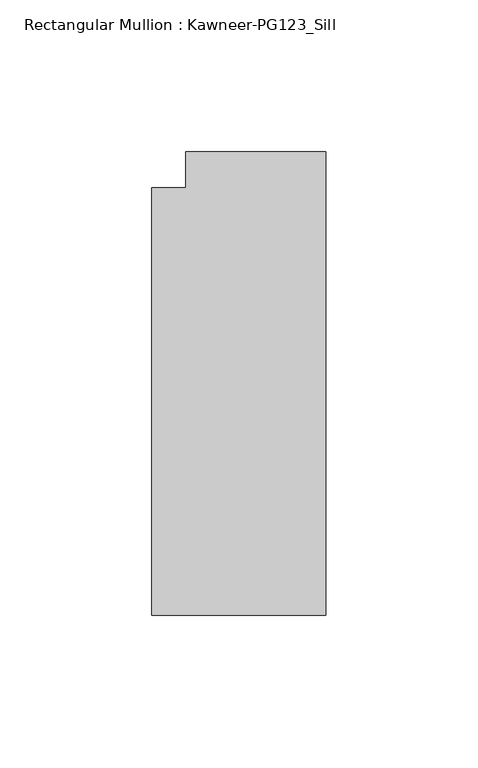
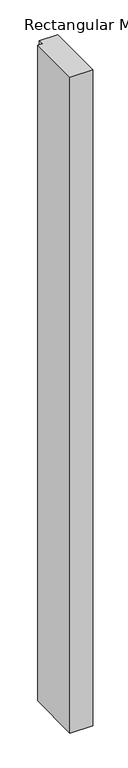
"""IFC4 building model written with IfcOpenShell, lengths in millimetres: member geometry, Rectangular Mullion : Kawneer-PG123_Sill."""

import ifcopenshell
import ifcopenshell.guid

model = None  # the IFC model being written
_history = None  # IfcOwnerHistory: only IFC2X3 demands one
_inside = {}  # id of a spatial element -> (the spatial element, [elements in it])
_under = {}  # id of a project, library or spatial element -> (it, [spatial elements below it])
_declared = {}  # id of a project -> (the project, [libraries it declares])
_typed = {}  # id of a type object -> (the type object, [elements of that type])
_made_of = {}  # id of a material, layer set ... -> (it, [elements and type objects made of it])


def new_model(schema):
    """Start an empty IFC model of exactly this schema.

    Asked for "IFC4X3", IfcOpenShell would pick the latest addendum, in which some entities
    have other attributes; the version numbers below select the first issue.
    IFC2X3 requires an IfcOwnerHistory on every rooted entity: one is made here for all.
    """
    global model, _history
    if schema == "IFC4X3":
        model = ifcopenshell.file(schema_version=(4, 3, 0, 0))
    else:
        model = ifcopenshell.file(schema=schema)
    _inside.clear()
    _under.clear()
    _declared.clear()
    _typed.clear()
    _made_of.clear()
    _history = None
    if model.schema == "IFC2X3":
        org = make("IfcOrganization", Name="unknown")
        user = make(
            "IfcPersonAndOrganization",
            ThePerson=make("IfcPerson", FamilyName="unknown"),
            TheOrganization=org,
        )
        app = make(
            "IfcApplication",
            ApplicationDeveloper=org,
            Version="unknown",
            ApplicationFullName="unknown",
            ApplicationIdentifier="unknown",
        )
        _history = make(
            "IfcOwnerHistory",
            OwningUser=user,
            OwningApplication=app,
            ChangeAction="ADDED",
            CreationDate=0,
        )
    return model


def make(cls, **values):
    """One entity of the class cls with the attributes given. An attribute that is None is left unset."""
    return model.create_entity(
        cls, **{name: value for name, value in values.items() if value is not None}
    )


def rooted(cls, **values):
    """An entity with a GlobalId (a new one), such as an element, a storey or a relation."""
    return make(cls, GlobalId=ifcopenshell.guid.new(), OwnerHistory=_history, **values)


def si_unit(unit_type, name, prefix=None):
    """IfcSIUnit, for example si_unit("LENGTHUNIT", "METRE", prefix="MILLI")."""
    return make("IfcSIUnit", UnitType=unit_type, Prefix=prefix, Name=name)


def assignment(units):
    """IfcUnitAssignment: the units of a project."""
    return None if units is None else make("IfcUnitAssignment", Units=units)


def point(xyz):
    """IfcCartesianPoint."""
    return None if xyz is None else make("IfcCartesianPoint", Coordinates=xyz)


def direction(xyz):
    """IfcDirection."""
    return None if xyz is None else make("IfcDirection", DirectionRatios=xyz)


def frame(location, z_axis=None, x_axis=None):
    """IfcAxis2Placement3D, a coordinate frame: its origin and axes. An axis left out is left unset."""
    return make(
        "IfcAxis2Placement3D",
        Location=point(location),
        Axis=direction(z_axis),
        RefDirection=direction(x_axis),
    )


def origin():
    """The frame at (0, 0, 0) with its axes left unset."""
    return frame((0.0, 0.0, 0.0))


def place(relative_to, where):
    """IfcLocalPlacement: puts the frame where relative to a parent placement (None: the world)."""
    return make(
        "IfcLocalPlacement", PlacementRelTo=relative_to, RelativePlacement=where
    )


def context(
    kind, dimensions, precision=None, world=None, true_north=None, identifier=None
):
    """IfcGeometricRepresentationContext, for example the 3D "Model" context."""
    return make(
        "IfcGeometricRepresentationContext",
        ContextIdentifier=identifier,
        ContextType=kind,
        CoordinateSpaceDimension=dimensions,
        Precision=precision,
        WorldCoordinateSystem=world,
        TrueNorth=true_north,
    )


def project(units=None, contexts=None):
    """IfcProject with its units and contexts."""
    return rooted(
        "IfcProject",
        Name="project",
        RepresentationContexts=contexts,
        UnitsInContext=assignment(units),
    )


def spatial(cls, under=None, at=None, **own):
    """A site, building, storey or space (cls), placed at a placement, below another one or the project."""
    s = rooted(cls, ObjectPlacement=at, **own)
    if under is not None:
        _under.setdefault(under.id(), (under, []))[1].append(s)
    return s


def polyline(points):
    """IfcPolyline through the points."""
    return make("IfcPolyline", Points=[point(p) for p in points])


def outline(outer, holes=None, kind="AREA"):
    """IfcArbitraryClosedProfileDef: a profile drawn as a closed curve; with holes, ...WithVoids."""
    if holes is None:
        return make("IfcArbitraryClosedProfileDef", ProfileType=kind, OuterCurve=outer)
    return make(
        "IfcArbitraryProfileDefWithVoids",
        ProfileType=kind,
        OuterCurve=outer,
        InnerCurves=holes,
    )


def extrude(swept, where, along, depth):
    """IfcExtrudedAreaSolid: the profile swept, set in the frame where, extruded along a direction by depth."""
    return make(
        "IfcExtrudedAreaSolid",
        SweptArea=swept,
        Position=where,
        ExtrudedDirection=direction(along),
        Depth=depth,
    )


def shape(context_of_items, identifier, shape_type, items):
    """IfcShapeRepresentation: the items that make up one representation, for example the "Body"."""
    return make(
        "IfcShapeRepresentation",
        ContextOfItems=context_of_items,
        RepresentationIdentifier=identifier,
        RepresentationType=shape_type,
        Items=items,
    )


def source(mapping_origin, context_of_items, identifier, shape_type, items):
    """IfcRepresentationMap: a shape defined once, which mapped items show again and again."""
    return make(
        "IfcRepresentationMap",
        MappingOrigin=mapping_origin,
        MappedRepresentation=shape(context_of_items, identifier, shape_type, items),
    )


def transform(
    local_origin,
    x_axis=None,
    y_axis=None,
    z_axis=None,
    scale=None,
    scale2=None,
    scale3=None,
    uniform=True,
):
    """IfcCartesianTransformationOperator3D, or its non-uniform kind. x_axis, y_axis, z_axis: its Axis1, 2, 3."""
    if uniform:
        return make(
            "IfcCartesianTransformationOperator3D",
            Axis1=direction(x_axis),
            Axis2=direction(y_axis),
            LocalOrigin=point(local_origin),
            Scale=scale,
            Axis3=direction(z_axis),
        )
    return make(
        "IfcCartesianTransformationOperator3DnonUniform",
        Axis1=direction(x_axis),
        Axis2=direction(y_axis),
        LocalOrigin=point(local_origin),
        Scale=scale,
        Axis3=direction(z_axis),
        Scale2=scale2,
        Scale3=scale3,
    )


def mapped(mapping_source, mapping_target):
    """IfcMappedItem: shows the shape of a source again, moved by a transform."""
    return make(
        "IfcMappedItem", MappingSource=mapping_source, MappingTarget=mapping_target
    )


def made_of(thing, what):
    """Note that an element or type object is made of a material, layer set ...; save() writes the relation."""
    if what is not None:
        _made_of.setdefault(what.id(), (what, []))[1].append(thing)
    return thing


def element(
    cls,
    number,
    at=None,
    inside=None,
    cuts=None,
    type_object=None,
    material=None,
    context=None,
    identifier="Body",
    shape_type=None,
    held_by="IfcProductDefinitionShape",
    body=None,
    shapes=None,
    **own,
):
    """One element of the class cls, such as IfcWall. Its Tag is "e" and its number.

    at: its placement. inside: the storey or other place that contains it. cuts: it is an
    opening in that element (IfcRelVoidsElement). A single representation is given by context,
    identifier, shape_type and body (its items); several are given by shapes. held_by: the class
    of the entity that holds the representations. save() writes the other relations.
    """
    e = rooted(cls, Tag="e%d" % number, ObjectPlacement=at, **own)
    if body is not None:
        shapes = [shape(context, identifier, shape_type, body)]
    if shapes is not None:
        e.Representation = make(held_by, Representations=shapes)
    if inside is not None:
        _inside.setdefault(inside.id(), (inside, []))[1].append(e)
    if cuts is not None:
        rooted(
            "IfcRelVoidsElement", RelatingBuildingElement=cuts, RelatedOpeningElement=e
        )
    if type_object is not None:
        _typed.setdefault(type_object.id(), (type_object, []))[1].append(e)
    return made_of(e, material)


def aggregate(whole, parts):
    """IfcRelAggregates: a whole, such as a stair, and the parts it consists of."""
    return rooted("IfcRelAggregates", RelatingObject=whole, RelatedObjects=parts)


def save(model, path):
    """Write the relations noted so far, then the file.

    IfcRelAggregates (storeys below a building ...), IfcRelContainedInSpatialStructure (elements
    in a storey), IfcRelDefinesByType, IfcRelAssociatesMaterial and IfcRelDeclares: one each for
    every whole, place, type object, material and project.
    """
    for whole, parts in _under.values():
        aggregate(whole, parts)
    for where, things in _inside.values():
        rooted(
            "IfcRelContainedInSpatialStructure",
            RelatedElements=things,
            RelatingStructure=where,
        )
    for kind, things in _typed.values():
        rooted("IfcRelDefinesByType", RelatedObjects=things, RelatingType=kind)
    for what, things in _made_of.values():
        rooted("IfcRelAssociatesMaterial", RelatedObjects=things, RelatingMaterial=what)
    for by, libraries in _declared.values():
        rooted("IfcRelDeclares", RelatingContext=by, RelatedDefinitions=libraries)
    model.write(path)


def rectangular_mullion_kawneer_pg123_sill_8be73952(model_context):
    return source(origin(), model_context, "Body", "SweptSolid", [
        extrude(outline(polyline([(0.0, 76.2), (0.0, -76.2), (-57.15, -76.2), (-57.15, 64.4779044), (-46.0319821, 64.4779044), (-46.0319821, 76.2), (0.0, 76.2)])), frame((0.0, 0.0, -1741.875), z_axis=(0.0, 0.0, 1.0), x_axis=(1.0, 0.0, 0.0)), (0.0, 0.0, 1.0), 1741.875),
    ])


if __name__ == "__main__":
    model = new_model("IFC4")
    model_context = context("Model", 3, world=origin())
    ifc_project = project(units=[si_unit("LENGTHUNIT", "METRE", prefix="MILLI")], contexts=[model_context])
    site = spatial("IfcSite", under=ifc_project)
    building = spatial("IfcBuilding", under=site)
    placement = place(None, origin())
    rectangular_mullion_kawneer_pg123_sill_shape = rectangular_mullion_kawneer_pg123_sill_8be73952(model_context)
    element("IfcMember", 1, ObjectType="Rectangular Mullion : Kawneer-PG123_Sill", at=placement, inside=building, context=model_context, shape_type="MappedRepresentation", body=[
        mapped(rectangular_mullion_kawneer_pg123_sill_shape, transform((0.0, 0.0, 0.0), x_axis=(1.0, 0.0, 0.0), y_axis=(0.0, 1.0, 0.0), z_axis=(0.0, 0.0, 1.0))),
    ])
    save(model, "model.ifc")
